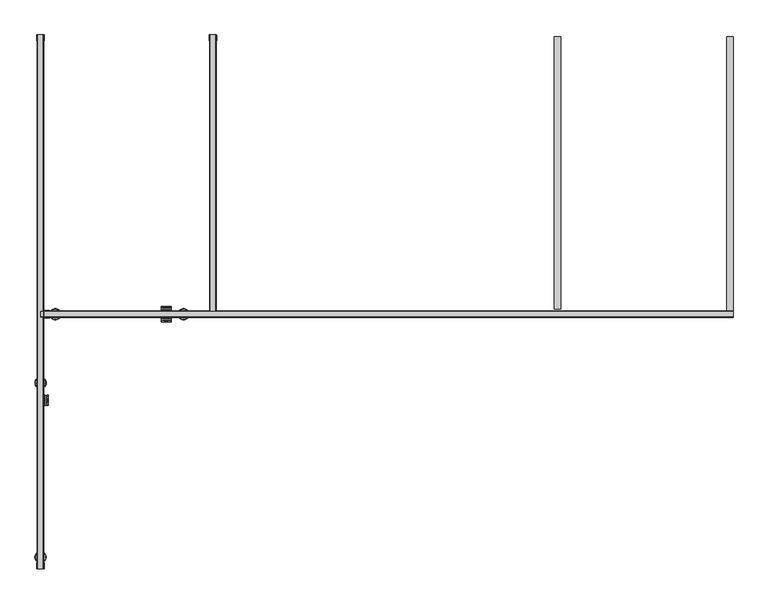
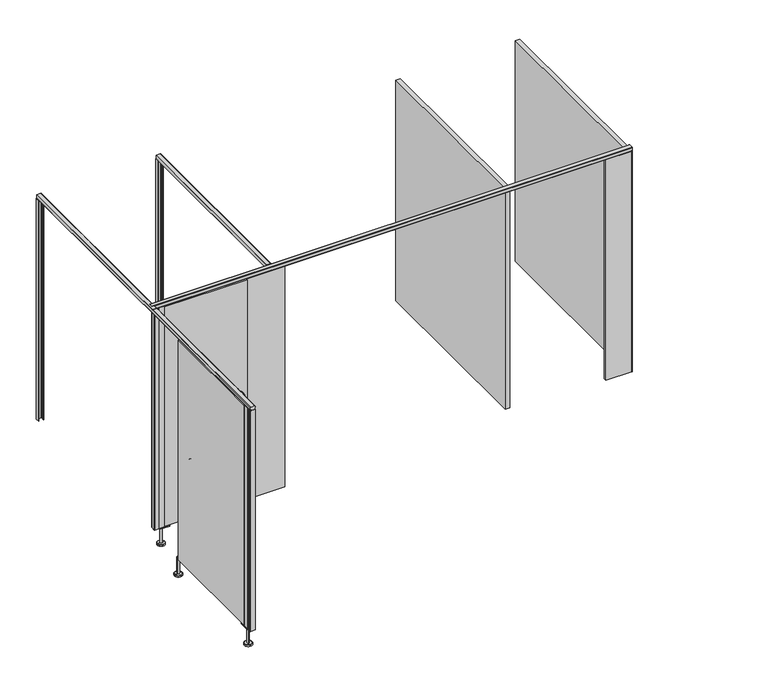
"""IFC4 building model written with IfcOpenShell, lengths in millimetres: proxy geometry, Partition_EuroStyle-Bradley_Corp-ADA_Alcove_4StandardStall-LOFT : Partition_EuroStyle-Bradley_Corp-ADA_Alcove_4StandardStall-LOFT."""

from ifc_helpers import new_model, si_unit, point, frame, frame_2d, origin, place, context, project, spatial, polyline, circle_curve, ellipse_curve, trimmed, segment, composite_curve, outline, extrude, source, transform, mapped, element, save
from ifc_brep_helpers import plane_surface, cylinder_surface, revolved_surface, advanced_brep


def specialty_equipment_41413af0(model_context):
    return source(origin(), model_context, "Body", "SolidModel", [
        advanced_brep(
        [(1585.4203251, -2016.8, 1050.0), (1585.4203251, -1988.225, 1050.0), (1585.4203251, -2045.375, 1050.0), (1590.1828251, -1988.225, 1050.0), (1590.1828251, -2045.375, 1050.0), (1604.4703251, -2045.375, 1050.0), (1604.4703251, -1988.225, 1050.0), (1609.2328251, -1988.225, 1050.0), (1609.2328251, -2045.375, 1050.0), (1602.8828251, -2043.7875, 1050.0), (1602.8828251, -1989.8125, 1050.0), (1591.7703251, -2043.7875, 1050.0), (1591.7703251, -1989.8125, 1050.0), (1610.8203251, -2016.8, 1050.0)],
        [
            (0, 1),
            (1, 2, circle_curve(frame((1585.4203251, -2016.8, 1050.0), z_axis=(-1.0, 0.0, 0.0), x_axis=(0.0, 1.0, 0.0)), 28.575)),
            (2, 0),
            (2, 1, circle_curve(frame((1585.4203251, -2016.8, 1050.0), z_axis=(-1.0, 0.0, 0.0), x_axis=(0.0, 1.0, 0.0)), 28.575)),
            (1, 3),
            (3, 4, circle_curve(frame((1590.1828251, -2016.8, 1050.0), z_axis=(-1.0, 0.0, 0.0), x_axis=(0.0, 1.0, 0.0)), 28.575)),
            (4, 2),
            (4, 3, circle_curve(frame((1590.1828251, -2016.8, 1050.0), z_axis=(-1.0, 0.0, 0.0), x_axis=(0.0, 1.0, 0.0)), 28.575)),
            (5, 6, circle_curve(frame((1604.4703251, -2016.8, 1050.0), z_axis=(1.0, 0.0, 0.0), x_axis=(0.0, 1.0, 0.0)), 28.575)),
            (6, 7),
            (7, 8, circle_curve(frame((1609.2328251, -2016.8, 1050.0), z_axis=(-1.0, 0.0, 0.0), x_axis=(0.0, 1.0, 0.0)), 28.575)),
            (8, 5),
            (6, 5, circle_curve(frame((1604.4703251, -2016.8, 1050.0), z_axis=(1.0, 0.0, 0.0), x_axis=(0.0, 1.0, 0.0)), 28.575)),
            (8, 7, circle_curve(frame((1609.2328251, -2016.8, 1050.0), z_axis=(-1.0, 0.0, 0.0), x_axis=(0.0, 1.0, 0.0)), 28.575)),
            (9, 10, circle_curve(frame((1602.8828251, -2016.8, 1050.0), z_axis=(1.0, 0.0, 0.0), x_axis=(0.0, 1.0, 0.0)), 26.9875)),
            (10, 6, circle_curve(frame((1602.8828251, -1988.225, 1050.0), z_axis=(0.0, 0.0, 1.0), x_axis=(0.0, 1.0, 0.0)), 1.5875)),
            (5, 9, circle_curve(frame((1602.8828251, -2045.375, 1050.0), z_axis=(0.0, 0.0, 1.0), x_axis=(0.0, -1.0, 0.0)), 1.5875)),
            (10, 9, circle_curve(frame((1602.8828251, -2016.8, 1050.0), z_axis=(1.0, 0.0, 0.0), x_axis=(0.0, 1.0, 0.0)), 26.9875)),
            (11, 12, circle_curve(frame((1591.7703251, -2016.8, 1050.0), z_axis=(1.0, 0.0, 0.0), x_axis=(0.0, 1.0, 0.0)), 26.9875)),
            (12, 10),
            (9, 11),
            (12, 11, circle_curve(frame((1591.7703251, -2016.8, 1050.0), z_axis=(1.0, 0.0, 0.0), x_axis=(0.0, 1.0, 0.0)), 26.9875)),
            (3, 12, circle_curve(frame((1591.7703251, -1988.225, 1050.0), z_axis=(0.0, 0.0, 1.0), x_axis=(0.0, 1.0, 0.0)), 1.5875)),
            (11, 4, circle_curve(frame((1591.7703251, -2045.375, 1050.0), z_axis=(0.0, 0.0, 1.0), x_axis=(0.0, -1.0, 0.0)), 1.5875)),
            (7, 13, circle_curve(frame((1419.3457959, -2013.1058766, 1050.0), z_axis=(0.0, 0.0, -1.0), x_axis=(0.0, 1.0, 0.0)), 191.5101613)),
            (13, 8, circle_curve(frame((1419.3457959, -2020.4941234, 1050.0), z_axis=(0.0, 0.0, -1.0), x_axis=(0.0, -1.0, 0.0)), 191.5101613)),
        ],
        [
            plane_surface(frame((1585.4203251, -2016.8, 1050.0), z_axis=(-1.0, 0.0, 0.0), x_axis=(0.0, 1.0, 0.0))),
            cylinder_surface(frame((1585.4203251, -2016.8, 1050.0), z_axis=(-1.0, 0.0, 0.0), x_axis=(0.0, 1.0, 0.0)), 28.575),
            revolved_surface(trimmed(ellipse_curve(frame((1602.8828251, -1988.225, 1050.0), z_axis=(0.0, 0.0, -1.0), x_axis=(0.0, 1.0, 0.0)), 1.5875, 1.5875), [point((1604.4703251, -1988.225, 1050.0))], [point((1602.8828251, -1989.8125, 1050.0))], True, "CARTESIAN"), (1585.4203251, -2016.8, 1050.0), (-1.0, 0.0, 0.0)),
            cylinder_surface(frame((1585.4203251, -2016.8, 1050.0), z_axis=(-1.0, 0.0, 0.0), x_axis=(0.0, 1.0, 0.0)), 26.9875),
            revolved_surface(trimmed(ellipse_curve(frame((1591.7703251, -1988.225, 1050.0), z_axis=(0.0, 0.0, -1.0), x_axis=(0.0, 1.0, 0.0)), 1.5875, 1.5875), [point((1591.7703251, -1989.8125, 1050.0))], [point((1590.1828251, -1988.225, 1050.0))], True, "CARTESIAN"), (1585.4203251, -2016.8, 1050.0), (-1.0, 0.0, 0.0)),
            revolved_surface(trimmed(ellipse_curve(frame((1419.3457959, -2013.1058766, 1050.0), z_axis=(0.0, 0.0, 1.0), x_axis=(0.0, 1.0, 0.0)), 191.5101613, 191.5101613), [point((1610.8203251, -2016.8, 1050.0))], [point((1609.2328251, -1988.225, 1050.0))], True, "CARTESIAN"), (1585.4203251, -2016.8, 1050.0), (-1.0, 0.0, 0.0)),
        ],
        [
            (0, [[1, 2, 3]]),
            (0, [[-3, 4, -1]]),
            (1, [[-2, 5, 6, 7]]),
            (1, [[-4, -7, 8, -5]]),
            (1, [[9, 10, 11, 12]]),
            (1, [[13, -12, 14, -10]]),
            (2, [[15, 16, -9, 17]]),
            (2, [[18, -17, -13, -16]]),
            (3, [[19, 20, -15, 21]]),
            (3, [[22, -21, -18, -20]]),
            (4, [[-6, 23, -19, 24]]),
            (4, [[-8, -24, -22, -23]]),
            (5, [[-11, 25, 26]]),
            (5, [[-14, -26, -25]]),
        ],
    ),
        extrude(outline(polyline([(1549.4, -2862.4032348), (1549.4, -1953.3), (1585.4203251, -1953.3), (1585.4203251, -2862.4032348), (1549.4, -2862.4032348)])), frame((0.0, 0.0, 150.0), z_axis=(0.0, 0.0, 1.0), x_axis=(1.0, 0.0, 0.0)), (0.0, 0.0, 1.0), 1846.0),
        advanced_brep(
        [(2232.4451766, -1524.0098174, 1050.0), (2289.5951766, -1524.0098174, 1050.0), (2261.0201766, -1524.0098174, 1050.0), (2232.4451766, -1519.2473174, 1050.0), (2289.5951766, -1519.2473174, 1050.0), (2232.4451766, -1500.1973174, 1050.0), (2289.5951766, -1500.1973174, 1050.0), (2289.5951766, -1504.9598174, 1050.0), (2232.4451766, -1504.9598174, 1050.0), (2288.0076766, -1506.5473174, 1050.0), (2234.0326766, -1506.5473174, 1050.0), (2288.0076766, -1517.6598174, 1050.0), (2234.0326766, -1517.6598174, 1050.0), (2261.0201766, -1498.6098174, 1050.0)],
        [
            (0, 1, circle_curve(frame((2261.0201766, -1524.0098174, 1050.0), z_axis=(0.0, -1.0, 0.0), x_axis=(1.0000000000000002, 0.0, 0.0)), 28.575)),
            (1, 2),
            (2, 0),
            (1, 0, circle_curve(frame((2261.0201766, -1524.0098174, 1050.0), z_axis=(0.0, -1.0, 0.0), x_axis=(1.0000000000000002, 0.0, 0.0)), 28.575)),
            (3, 4, circle_curve(frame((2261.0201766, -1519.2473174, 1050.0), z_axis=(0.0, -1.0, 0.0), x_axis=(1.0000000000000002, 0.0, 0.0)), 28.575)),
            (4, 1),
            (0, 3),
            (4, 3, circle_curve(frame((2261.0201766, -1519.2473174, 1050.0), z_axis=(0.0, -1.0, 0.0), x_axis=(1.0000000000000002, 0.0, 0.0)), 28.575)),
            (5, 6, circle_curve(frame((2261.0201766, -1500.1973174, 1050.0), z_axis=(0.0, -1.0, 0.0), x_axis=(1.0000000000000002, 0.0, 0.0)), 28.575)),
            (6, 7),
            (7, 8, circle_curve(frame((2261.0201766, -1504.9598174, 1050.0), z_axis=(0.0, 1.0, 0.0), x_axis=(1.0000000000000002, 0.0, 0.0)), 28.575)),
            (8, 5),
            (6, 5, circle_curve(frame((2261.0201766, -1500.1973174, 1050.0), z_axis=(0.0, -1.0, 0.0), x_axis=(1.0000000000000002, 0.0, 0.0)), 28.575)),
            (8, 7, circle_curve(frame((2261.0201766, -1504.9598174, 1050.0), z_axis=(0.0, 1.0, 0.0), x_axis=(1.0000000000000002, 0.0, 0.0)), 28.575)),
            (7, 9, circle_curve(frame((2289.5951766, -1506.5473174, 1050.0), z_axis=(0.0, 0.0, 1.0), x_axis=(1.0000000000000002, 0.0, 0.0)), 1.5875)),
            (9, 10, circle_curve(frame((2261.0201766, -1506.5473174, 1050.0), z_axis=(0.0, 1.0, 0.0), x_axis=(1.0000000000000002, 0.0, 0.0)), 26.9875)),
            (10, 8, circle_curve(frame((2232.4451766, -1506.5473174, 1050.0), z_axis=(0.0, 0.0, 1.0), x_axis=(-1.0000000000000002, 0.0, 0.0)), 1.5875)),
            (10, 9, circle_curve(frame((2261.0201766, -1506.5473174, 1050.0), z_axis=(0.0, 1.0, 0.0), x_axis=(1.0000000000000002, 0.0, 0.0)), 26.9875)),
            (9, 11),
            (11, 12, circle_curve(frame((2261.0201766, -1517.6598174, 1050.0), z_axis=(0.0, 1.0, 0.0), x_axis=(1.0000000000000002, 0.0, 0.0)), 26.9875)),
            (12, 10),
            (12, 11, circle_curve(frame((2261.0201766, -1517.6598174, 1050.0), z_axis=(0.0, 1.0, 0.0), x_axis=(1.0000000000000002, 0.0, 0.0)), 26.9875)),
            (11, 4, circle_curve(frame((2289.5951766, -1517.6598174, 1050.0), z_axis=(0.0, 0.0, 1.0), x_axis=(1.0000000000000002, 0.0, 0.0)), 1.5875)),
            (3, 12, circle_curve(frame((2232.4451766, -1517.6598174, 1050.0), z_axis=(0.0, 0.0, 1.0), x_axis=(-1.0000000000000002, 0.0, 0.0)), 1.5875)),
            (13, 6, circle_curve(frame((2264.7143, -1690.0843466, 1050.0), z_axis=(0.0, 0.0, -1.0), x_axis=(1.0000000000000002, 0.0, 0.0)), 191.5101613)),
            (5, 13, circle_curve(frame((2257.3260533, -1690.0843466, 1050.0), z_axis=(0.0, 0.0, -1.0), x_axis=(-1.0000000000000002, 0.0, 0.0)), 191.5101613)),
        ],
        [
            plane_surface(frame((2261.0201766, -1524.0098174, 1050.0), z_axis=(0.0, -1.0, 0.0), x_axis=(1.0, 0.0, 0.0))),
            cylinder_surface(frame((2261.0201766, -1524.0098174, 1050.0), z_axis=(0.0, 1.0000000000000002, 0.0), x_axis=(1.0000000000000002, 0.0, 0.0)), 28.575),
            revolved_surface(trimmed(ellipse_curve(frame((2289.5951766, -1506.5473174, 1050.0), z_axis=(0.0, 0.0, -1.0), x_axis=(1.0000000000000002, 0.0, 0.0)), 1.5875, 1.5875), [point((2288.0076766, -1506.5473174, 1050.0))], [point((2289.5951766, -1504.9598174, 1050.0))], True, "CARTESIAN"), (2261.0201766, -1524.0098174, 1050.0), (0.0, 1.0000000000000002, 0.0)),
            cylinder_surface(frame((2261.0201766, -1524.0098174, 1050.0), z_axis=(0.0, 1.0000000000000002, 0.0), x_axis=(1.0000000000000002, 0.0, 0.0)), 26.9875),
            revolved_surface(trimmed(ellipse_curve(frame((2289.5951766, -1517.6598174, 1050.0), z_axis=(0.0, 0.0, -1.0), x_axis=(1.0000000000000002, 0.0, 0.0)), 1.5875, 1.5875), [point((2289.5951766, -1519.2473174, 1050.0))], [point((2288.0076766, -1517.6598174, 1050.0))], True, "CARTESIAN"), (2261.0201766, -1524.0098174, 1050.0), (0.0, 1.0000000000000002, 0.0)),
            revolved_surface(trimmed(ellipse_curve(frame((2264.7143, -1690.0843466, 1050.0), z_axis=(0.0, 0.0, 1.0), x_axis=(1.0000000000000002, 0.0, 0.0)), 191.5101613, 191.5101613), [point((2289.5951766, -1500.1973174, 1050.0))], [point((2261.0201766, -1498.6098174, 1050.0))], True, "CARTESIAN"), (2261.0201766, -1524.0098174, 1050.0), (0.0, 1.0000000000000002, 0.0)),
        ],
        [
            (0, [[1, 2, 3]]),
            (0, [[4, -3, -2]]),
            (1, [[5, 6, -1, 7]]),
            (1, [[8, -7, -4, -6]]),
            (1, [[9, 10, 11, 12]]),
            (1, [[13, -12, 14, -10]]),
            (2, [[-11, 15, 16, 17]]),
            (2, [[-14, -17, 18, -15]]),
            (3, [[-16, 19, 20, 21]]),
            (3, [[-18, -21, 22, -19]]),
            (4, [[-20, 23, -5, 24]]),
            (4, [[-22, -24, -8, -23]]),
            (5, [[25, -9, 26]]),
            (5, [[-26, -13, -25]]),
        ],
    ),
        advanced_brep(
        [(2261.0201766, -1560.0098174, 1050.0), (2289.5951766, -1560.0098174, 1050.0), (2232.4451766, -1560.0098174, 1050.0), (2289.5951766, -1564.7723174, 1050.0), (2232.4451766, -1564.7723174, 1050.0), (2232.4451766, -1579.0598174, 1050.0), (2289.5951766, -1579.0598174, 1050.0), (2289.5951766, -1583.8223174, 1050.0), (2232.4451766, -1583.8223174, 1050.0), (2234.0326766, -1577.4723174, 1050.0), (2288.0076766, -1577.4723174, 1050.0), (2234.0326766, -1566.3598174, 1050.0), (2288.0076766, -1566.3598174, 1050.0), (2261.0201766, -1585.4098174, 1050.0)],
        [
            (0, 1),
            (1, 2, circle_curve(frame((2261.0201766, -1560.0098174, 1050.0), z_axis=(0.0, 1.0, 0.0), x_axis=(1.0000000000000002, 0.0, 0.0)), 28.575)),
            (2, 0),
            (2, 1, circle_curve(frame((2261.0201766, -1560.0098174, 1050.0), z_axis=(0.0, 1.0, 0.0), x_axis=(1.0000000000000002, 0.0, 0.0)), 28.575)),
            (1, 3),
            (3, 4, circle_curve(frame((2261.0201766, -1564.7723174, 1050.0), z_axis=(0.0, 1.0, 0.0), x_axis=(1.0000000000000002, 0.0, 0.0)), 28.575)),
            (4, 2),
            (4, 3, circle_curve(frame((2261.0201766, -1564.7723174, 1050.0), z_axis=(0.0, 1.0, 0.0), x_axis=(1.0000000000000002, 0.0, 0.0)), 28.575)),
            (5, 6, circle_curve(frame((2261.0201766, -1579.0598174, 1050.0), z_axis=(0.0, -1.0, 0.0), x_axis=(1.0000000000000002, 0.0, 0.0)), 28.575)),
            (6, 7),
            (7, 8, circle_curve(frame((2261.0201766, -1583.8223174, 1050.0), z_axis=(0.0, 1.0, 0.0), x_axis=(1.0000000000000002, 0.0, 0.0)), 28.575)),
            (8, 5),
            (6, 5, circle_curve(frame((2261.0201766, -1579.0598174, 1050.0), z_axis=(0.0, -1.0, 0.0), x_axis=(1.0000000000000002, 0.0, 0.0)), 28.575)),
            (8, 7, circle_curve(frame((2261.0201766, -1583.8223174, 1050.0), z_axis=(0.0, 1.0, 0.0), x_axis=(1.0000000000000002, 0.0, 0.0)), 28.575)),
            (9, 10, circle_curve(frame((2261.0201766, -1577.4723174, 1050.0), z_axis=(0.0, -1.0, 0.0), x_axis=(1.0000000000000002, 0.0, 0.0)), 26.9875)),
            (10, 6, circle_curve(frame((2289.5951766, -1577.4723174, 1050.0), z_axis=(0.0, 0.0, 1.0), x_axis=(1.0000000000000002, 0.0, 0.0)), 1.5875)),
            (5, 9, circle_curve(frame((2232.4451766, -1577.4723174, 1050.0), z_axis=(0.0, 0.0, 1.0), x_axis=(-1.0000000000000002, 0.0, 0.0)), 1.5875)),
            (10, 9, circle_curve(frame((2261.0201766, -1577.4723174, 1050.0), z_axis=(0.0, -1.0, 0.0), x_axis=(1.0000000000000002, 0.0, 0.0)), 26.9875)),
            (11, 12, circle_curve(frame((2261.0201766, -1566.3598174, 1050.0), z_axis=(0.0, -1.0, 0.0), x_axis=(1.0000000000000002, 0.0, 0.0)), 26.9875)),
            (12, 10),
            (9, 11),
            (12, 11, circle_curve(frame((2261.0201766, -1566.3598174, 1050.0), z_axis=(0.0, -1.0, 0.0), x_axis=(1.0000000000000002, 0.0, 0.0)), 26.9875)),
            (3, 12, circle_curve(frame((2289.5951766, -1566.3598174, 1050.0), z_axis=(0.0, 0.0, 1.0), x_axis=(1.0000000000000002, 0.0, 0.0)), 1.5875)),
            (11, 4, circle_curve(frame((2232.4451766, -1566.3598174, 1050.0), z_axis=(0.0, 0.0, 1.0), x_axis=(-1.0000000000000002, 0.0, 0.0)), 1.5875)),
            (7, 13, circle_curve(frame((2264.7143, -1393.9352882, 1050.0), z_axis=(0.0, 0.0, -1.0), x_axis=(1.0000000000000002, 0.0, 0.0)), 191.5101613)),
            (13, 8, circle_curve(frame((2257.3260533, -1393.9352882, 1050.0), z_axis=(0.0, 0.0, -1.0), x_axis=(-1.0000000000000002, 0.0, 0.0)), 191.5101613)),
        ],
        [
            plane_surface(frame((2261.0201766, -1560.0098174, 1050.0), z_axis=(0.0, 1.0, 0.0), x_axis=(1.0, 0.0, 0.0))),
            cylinder_surface(frame((2261.0201766, -1560.0098174, 1050.0), z_axis=(0.0, 1.0000000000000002, 0.0), x_axis=(1.0000000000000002, 0.0, 0.0)), 28.575),
            revolved_surface(trimmed(ellipse_curve(frame((2289.5951766, -1577.4723174, 1050.0), z_axis=(0.0, 0.0, -1.0), x_axis=(1.0000000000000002, 0.0, 0.0)), 1.5875, 1.5875), [point((2289.5951766, -1579.0598174, 1050.0))], [point((2288.0076766, -1577.4723174, 1050.0))], True, "CARTESIAN"), (2261.0201766, -1560.0098174, 1050.0), (0.0, 1.0000000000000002, 0.0)),
            cylinder_surface(frame((2261.0201766, -1560.0098174, 1050.0), z_axis=(0.0, 1.0000000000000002, 0.0), x_axis=(1.0000000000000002, 0.0, 0.0)), 26.9875),
            revolved_surface(trimmed(ellipse_curve(frame((2289.5951766, -1566.3598174, 1050.0), z_axis=(0.0, 0.0, -1.0), x_axis=(1.0000000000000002, 0.0, 0.0)), 1.5875, 1.5875), [point((2288.0076766, -1566.3598174, 1050.0))], [point((2289.5951766, -1564.7723174, 1050.0))], True, "CARTESIAN"), (2261.0201766, -1560.0098174, 1050.0), (0.0, 1.0000000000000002, 0.0)),
            revolved_surface(trimmed(ellipse_curve(frame((2264.7143, -1393.9352882, 1050.0), z_axis=(0.0, 0.0, 1.0), x_axis=(1.0000000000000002, 0.0, 0.0)), 191.5101613, 191.5101613), [point((2261.0201766, -1585.4098174, 1050.0))], [point((2289.5951766, -1583.8223174, 1050.0))], True, "CARTESIAN"), (2261.0201766, -1560.0098174, 1050.0), (0.0, 1.0000000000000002, 0.0)),
        ],
        [
            (0, [[1, 2, 3]]),
            (0, [[-3, 4, -1]]),
            (1, [[-2, 5, 6, 7]]),
            (1, [[-4, -7, 8, -5]]),
            (1, [[9, 10, 11, 12]]),
            (1, [[13, -12, 14, -10]]),
            (2, [[15, 16, -9, 17]]),
            (2, [[18, -17, -13, -16]]),
            (3, [[19, 20, -15, 21]]),
            (3, [[22, -21, -18, -20]]),
            (4, [[-6, 23, -19, 24]]),
            (4, [[-8, -24, -22, -23]]),
            (5, [[-11, 25, 26]]),
            (5, [[-14, -26, -25]]),
        ],
    ),
        extrude(outline(polyline([(1669.4170903, -1523.9894923), (2324.5201766, -1523.9894923), (2324.5201766, -1560.0098174), (1669.4170903, -1560.0098174), (1669.4170903, -1523.9894923)])), frame((0.0, 0.0, 150.0), z_axis=(0.0, 0.0, 1.0), x_axis=(1.0, 0.0, 0.0)), (0.0, 0.0, 1.0), 1846.0),
        extrude(outline(composite_curve([segment(polyline([(2497.3288796, -32.5000002), (2496.8205405, -2.02918)]), True, "CONTINUOUS"), segment(trimmed(circle_curve(frame_2d((2498.8497205, -2.02918)), 2.02918), [point((2496.8205405, -2.02918))], [point((2498.8497205, 0.0))], False, "CARTESIAN"), True, "CONTINUOUS"), segment(polyline([(2498.8497205, 0.0), (2536.7909298, 0.0)]), True, "CONTINUOUS"), segment(trimmed(circle_curve(frame_2d((2536.7909298, -2.02918)), 2.02918), [point((2536.7909298, 0.0))], [point((2538.8201098, -2.02918))], False, "CARTESIAN"), True, "CONTINUOUS"), segment(polyline([(2538.8201098, -2.02918), (2538.3117707, -32.5000002), (2536.8131851, -32.5000002)]), True, "CONTINUOUS"), segment(trimmed(circle_curve(frame_2d((2536.8167525, -31.5009082)), 0.9990984), [point((2536.8131851, -32.5000002))], [point((2536.3430999, -30.6212202))], False, "CARTESIAN"), True, "CONTINUOUS"), segment(polyline([(2536.3430999, -30.6212202), (2536.4642099, -23.3575702)]), True, "CONTINUOUS"), segment(trimmed(circle_curve(frame_2d((2536.9817558, -22.5000551)), 1.0015917), [point((2536.4642099, -23.3575702))], [point((2536.4926587, -21.6260013))], False, "CARTESIAN"), True, "CONTINUOUS"), segment(polyline([(2536.4926587, -21.6260013), (2536.78671, -4.0)]), True, "CONTINUOUS"), segment(trimmed(circle_curve(frame_2d((2534.7870154, -3.9990939)), 1.9996948), [point((2536.78671, -4.0))], [point((2534.7379958, -2.0))], True, "CARTESIAN"), True, "CONTINUOUS"), segment(polyline([(2534.7379958, -2.0), (2500.8536968, -2.0)]), True, "CONTINUOUS"), segment(trimmed(circle_curve(frame_2d((2500.8536968, -4.0002204)), 2.0002204), [point((2500.8536968, -2.0))], [point((2498.8535049, -3.9895469))], True, "CARTESIAN"), True, "CONTINUOUS"), segment(polyline([(2498.8535049, -3.9895469), (2499.1475604, -21.6257602)]), True, "CONTINUOUS"), segment(trimmed(circle_curve(frame_2d((2498.6588945, -22.5000551)), 1.0015917), [point((2499.1475604, -21.6257602))], [point((2499.1764404, -23.3575702))], False, "CARTESIAN"), True, "CONTINUOUS"), segment(polyline([(2499.1764404, -23.3575702), (2499.2975504, -30.6212202)]), True, "CONTINUOUS"), segment(trimmed(circle_curve(frame_2d((2498.8238978, -31.5009082)), 0.9990984), [point((2499.2975504, -30.6212202))], [point((2498.8274652, -32.5000002))], False, "CARTESIAN"), True, "CONTINUOUS"), segment(polyline([(2498.8274652, -32.5000002), (2497.3288796, -32.5000002)]), True, "CONTINUOUS")], self_intersect=False)), frame((0.0, 0.0, 150.0), z_axis=(0.0, 0.0, 1.0), x_axis=(1.0, 0.0, 0.0)), (0.0, 0.0, 1.0), 1855.0),
        extrude(outline(composite_curve([segment(polyline([(1617.9203254, -1521.5082093), (1617.9203254, -1523.0067949)]), True, "CONTINUOUS"), segment(trimmed(circle_curve(frame_2d((1616.9212333, -1523.0032275)), 0.9990984), [point((1617.9203254, -1523.0067949))], [point((1616.0415454, -1523.4768801))], False, "CARTESIAN"), True, "CONTINUOUS"), segment(polyline([(1616.0415454, -1523.4768801), (1608.7778953, -1523.3557701)]), True, "CONTINUOUS"), segment(trimmed(circle_curve(frame_2d((1607.9203802, -1522.8382242)), 1.0015917), [point((1608.7778953, -1523.3557701))], [point((1607.0460853, -1523.3268901))], False, "CARTESIAN"), True, "CONTINUOUS"), segment(polyline([(1607.0460853, -1523.3268901), (1589.4098721, -1523.0328346)]), True, "CONTINUOUS"), segment(trimmed(circle_curve(frame_2d((1589.4205455, -1525.0330265)), 2.0002204), [point((1589.4098721, -1523.0328346))], [point((1587.4203251, -1525.0330265))], True, "CARTESIAN"), True, "CONTINUOUS"), segment(polyline([(1587.4203251, -1525.0330265), (1587.4203252, -1558.9173255)]), True, "CONTINUOUS"), segment(trimmed(circle_curve(frame_2d((1589.4194191, -1558.9663451)), 1.9996948), [point((1587.4203252, -1558.9173255))], [point((1589.4203252, -1560.9660398))], True, "CARTESIAN"), True, "CONTINUOUS"), segment(polyline([(1589.4203252, -1560.9660398), (1607.0463264, -1560.6719884)]), True, "CONTINUOUS"), segment(trimmed(circle_curve(frame_2d((1607.9203802, -1561.1610855)), 1.0015917), [point((1607.0463264, -1560.6719884))], [point((1608.7778953, -1560.6435396))], False, "CARTESIAN"), True, "CONTINUOUS"), segment(polyline([(1608.7778953, -1560.6435396), (1616.0415454, -1560.5224296)]), True, "CONTINUOUS"), segment(trimmed(circle_curve(frame_2d((1616.9212333, -1560.9960822)), 0.9990984), [point((1616.0415454, -1560.5224296))], [point((1617.9203254, -1560.9925148))], False, "CARTESIAN"), True, "CONTINUOUS"), segment(polyline([(1617.9203254, -1560.9925148), (1617.9203254, -1562.4911004), (1587.4495052, -1562.9994395)]), True, "CONTINUOUS"), segment(trimmed(circle_curve(frame_2d((1587.4495052, -1560.9702595)), 2.02918), [point((1587.4495052, -1562.9994395))], [point((1585.4203251, -1560.9702595))], False, "CARTESIAN"), True, "CONTINUOUS"), segment(polyline([(1585.4203251, -1560.9702595), (1585.4203251, -1523.0290502)]), True, "CONTINUOUS"), segment(trimmed(circle_curve(frame_2d((1587.4495052, -1523.0290502)), 2.02918), [point((1585.4203251, -1523.0290502))], [point((1587.4495052, -1520.9998702))], False, "CARTESIAN"), True, "CONTINUOUS"), segment(polyline([(1587.4495052, -1520.9998702), (1617.9203254, -1521.5082093)]), True, "CONTINUOUS")], self_intersect=False)), frame((0.0, 0.0, 150.0), z_axis=(0.0, 0.0, 1.0), x_axis=(1.0, 0.0, 0.0)), (0.0, 0.0, 1.0), 1855.0),
        extrude(outline(polyline([(146.0000008, 1630.3184945), (138.0669895, 1630.3184945), (138.0669895, 1710.1657277), (146.0000008, 1710.0671655), (146.0000008, 1630.3184945)])), frame((0.0, -1559.4621549, 0.0), z_axis=(0.0, 1.0, 0.0), x_axis=(0.0, 0.0, 1.0)), (0.0, 0.0, 1.0), 34.925),
        advanced_brep(
        [(1657.9184936, -1541.9996549, 150.0000008), (1639.9184942, -1541.9996549, 150.0000008), (1639.9184942, -1541.9996549, 12.0000001), (1657.9184936, -1541.9996549, 12.0000001), (1648.9184939, -1541.9996549, 150.0000008), (1679.9184928, -1541.9996549, 0.0), (1617.9184949, -1541.9996549, 0.0), (1648.9184939, -1541.9996549, 0.0), (1679.9184928, -1541.9996549, 10.0000001), (1617.9184949, -1541.9996549, 10.0000001), (1677.9160809, -1541.9996549, 12.0000001), (1619.9209068, -1541.9996549, 12.0000001)],
        [
            (0, 1, circle_curve(frame((1648.9184939, -1541.9996549, 150.0000008), z_axis=(0.0, 0.0, -1.0), x_axis=(-1.0, 0.0, 0.0)), 8.9999997)),
            (1, 2),
            (2, 3, circle_curve(frame((1648.9184939, -1541.9996549, 12.0000001), z_axis=(0.0, 0.0, 1.0), x_axis=(-1.0, 0.0, 0.0)), 8.9999997)),
            (3, 0),
            (1, 0, circle_curve(frame((1648.9184939, -1541.9996549, 150.0000008), z_axis=(0.0, 0.0, -1.0), x_axis=(-1.0, 0.0, 0.0)), 8.9999997)),
            (3, 2, circle_curve(frame((1648.9184939, -1541.9996549, 12.0000001), z_axis=(0.0, 0.0, 1.0), x_axis=(-1.0, 0.0, 0.0)), 8.9999997)),
            (4, 1),
            (0, 4),
            (5, 6, circle_curve(frame((1648.9184939, -1541.9996549, 0.0), z_axis=(0.0, 0.0, -1.0), x_axis=(-1.0, 0.0, 0.0)), 30.9999989)),
            (6, 7),
            (7, 5),
            (6, 5, circle_curve(frame((1648.9184939, -1541.9996549, 0.0), z_axis=(0.0, 0.0, -1.0), x_axis=(-1.0, 0.0, 0.0)), 30.9999989)),
            (8, 9, circle_curve(frame((1648.9184939, -1541.9996549, 10.0000001), z_axis=(0.0, 0.0, -1.0), x_axis=(-1.0, 0.0, 0.0)), 30.9999989)),
            (9, 6),
            (5, 8),
            (9, 8, circle_curve(frame((1648.9184939, -1541.9996549, 10.0000001), z_axis=(0.0, 0.0, -1.0), x_axis=(-1.0, 0.0, 0.0)), 30.9999989)),
            (10, 11, circle_curve(frame((1648.9184939, -1541.9996549, 12.0000001), z_axis=(0.0, 0.0, -1.0), x_axis=(-1.0, 0.0, 0.0)), 28.997587)),
            (11, 9),
            (8, 10),
            (11, 10, circle_curve(frame((1648.9184939, -1541.9996549, 12.0000001), z_axis=(0.0, 0.0, -1.0), x_axis=(-1.0, 0.0, 0.0)), 28.997587)),
            (2, 11),
            (10, 3),
        ],
        [
            cylinder_surface(frame((1648.9184939, -1541.9996549, 0.0), z_axis=(0.0, 0.0, 1.0), x_axis=(-1.0, 0.0, 0.0)), 8.9999997),
            plane_surface(frame((1648.9184939, -1541.9996549, 150.0000008), z_axis=(0.0, 0.0, 1.0), x_axis=(-1.0, 0.0, 0.0))),
            plane_surface(frame((1648.9184939, -1541.9996549, 0.0), z_axis=(0.0, 0.0, -1.0), x_axis=(-1.0, 0.0, 0.0))),
            cylinder_surface(frame((1648.9184939, -1541.9996549, 0.0), z_axis=(0.0, 0.0, 1.0), x_axis=(-1.0, 0.0, 0.0)), 30.9999989),
            revolved_surface(polyline([(1617.9184949, -1541.9996549, 10.0000001), (1619.9209068, -1541.9996549, 12.0000001)]), (1648.9184939, -1541.9996549, 0.0), (0.0, 0.0, 1.0)),
            plane_surface(frame((1648.9184939, -1541.9996549, 12.0000001), z_axis=(0.0, 0.0, 1.0), x_axis=(-1.0, 0.0, 0.0))),
        ],
        [
            (0, [[1, 2, 3, 4]]),
            (0, [[5, -4, 6, -2]]),
            (1, [[7, -1, 8]]),
            (1, [[-8, -5, -7]]),
            (2, [[9, 10, 11]]),
            (2, [[12, -11, -10]]),
            (3, [[13, 14, -9, 15]]),
            (3, [[16, -15, -12, -14]]),
            (4, [[17, 18, -13, 19]]),
            (4, [[20, -19, -16, -18]]),
            (5, [[-3, 21, -17, 22]]),
            (5, [[-6, -22, -20, -21]]),
        ],
    ),
        extrude(outline(composite_curve([segment(polyline([(1595.4202531, -1523.9894923), (1670.9173386, -1523.9894923), (1670.9173386, -1525.9826232), (1672.0893041, -1525.9826232), (1673.0172441, -1528.6775566)]), True, "CONTINUOUS"), segment(trimmed(circle_curve(frame_2d((1696.3302625, -1542.1248043)), 26.9132923), [point((1673.0172441, -1528.6775566))], [point((1672.9373096, -1555.4325109))], True, "CARTESIAN"), True, "CONTINUOUS"), segment(polyline([(1672.9373096, -1555.4325109), (1671.99932, -1558.0096163), (1670.9173386, -1558.0096163), (1670.9173386, -1560.0098174), (1595.4202531, -1560.0098174), (1595.4202531, -1523.9894923)]), True, "CONTINUOUS")], self_intersect=False)), frame((0.0, 0.0, 150.0), z_axis=(0.0, 0.0, 1.0), x_axis=(1.0, 0.0, 0.0)), (0.0, 0.0, 1.0), 1855.0),
        extrude(outline(composite_curve([segment(polyline([(1546.918717, -2913.8999998), (1548.4173026, -2913.8999998)]), True, "CONTINUOUS"), segment(trimmed(circle_curve(frame_2d((1548.4137352, -2914.8990918)), 0.9990984), [point((1548.4173026, -2913.8999998))], [point((1548.8873879, -2915.7787798))], False, "CARTESIAN"), True, "CONTINUOUS"), segment(polyline([(1548.8873879, -2915.7787798), (1548.7662779, -2923.0424298)]), True, "CONTINUOUS"), segment(trimmed(circle_curve(frame_2d((1548.248732, -2923.8999449)), 1.0015917), [point((1548.7662779, -2923.0424298))], [point((1548.7373979, -2924.7742398))], False, "CARTESIAN"), True, "CONTINUOUS"), segment(polyline([(1548.7373979, -2924.7742398), (1548.4433424, -2942.4104531)]), True, "CONTINUOUS"), segment(trimmed(circle_curve(frame_2d((1550.4435342, -2942.3997796)), 2.0002204), [point((1548.4433424, -2942.4104531))], [point((1550.4435342, -2944.4))], True, "CARTESIAN"), True, "CONTINUOUS"), segment(polyline([(1550.4435342, -2944.4), (1584.3278332, -2944.4)]), True, "CONTINUOUS"), segment(trimmed(circle_curve(frame_2d((1584.3768528, -2942.4009061)), 1.9996948), [point((1584.3278332, -2944.4))], [point((1586.3765475, -2942.4))], True, "CARTESIAN"), True, "CONTINUOUS"), segment(polyline([(1586.3765475, -2942.4), (1586.0824961, -2924.7739987)]), True, "CONTINUOUS"), segment(trimmed(circle_curve(frame_2d((1586.5715932, -2923.8999449)), 1.0015917), [point((1586.0824961, -2924.7739987))], [point((1586.0540473, -2923.0424298))], False, "CARTESIAN"), True, "CONTINUOUS"), segment(polyline([(1586.0540473, -2923.0424298), (1585.9329373, -2915.7787798)]), True, "CONTINUOUS"), segment(trimmed(circle_curve(frame_2d((1586.4065899, -2914.8990918)), 0.9990984), [point((1585.9329373, -2915.7787798))], [point((1586.4030225, -2913.8999998))], False, "CARTESIAN"), True, "CONTINUOUS"), segment(polyline([(1586.4030225, -2913.8999998), (1587.9016081, -2913.8999998), (1588.4099473, -2944.37082)]), True, "CONTINUOUS"), segment(trimmed(circle_curve(frame_2d((1586.3807672, -2944.37082)), 2.02918), [point((1588.4099473, -2944.37082))], [point((1586.3807672, -2946.4))], False, "CARTESIAN"), True, "CONTINUOUS"), segment(polyline([(1586.3807672, -2946.4), (1548.4395579, -2946.4)]), True, "CONTINUOUS"), segment(trimmed(circle_curve(frame_2d((1548.4395579, -2944.37082)), 2.02918), [point((1548.4395579, -2946.4))], [point((1546.4103779, -2944.37082))], False, "CARTESIAN"), True, "CONTINUOUS"), segment(polyline([(1546.4103779, -2944.37082), (1546.918717, -2913.8999998)]), True, "CONTINUOUS")], self_intersect=False)), frame((0.0, 0.0, 150.0), z_axis=(0.0, 0.0, 1.0), x_axis=(1.0, 0.0, 0.0)), (0.0, 0.0, 1.0), 1855.0),
        extrude(outline(polyline([(-2901.5018307, 146.0000008), (-2821.7531596, 146.0000008), (-2821.6545975, 138.0669895), (-2901.5018307, 138.0669895), (-2901.5018307, 146.0000008)])), frame((1549.9476626, 0.0, 0.0), z_axis=(1.0, 0.0, 0.0), x_axis=(0.0, 1.0, 0.0)), (0.0, 0.0, 1.0), 34.925),
        advanced_brep(
        [(1567.4101626, -2873.9018316, 150.0000008), (1567.4101626, -2891.901831, 150.0000008), (1567.4101626, -2891.901831, 12.0000001), (1567.4101626, -2873.9018316, 12.0000001), (1567.4101626, -2882.9018313, 150.0000008), (1567.4101626, -2851.9018323, 0.0), (1567.4101626, -2913.9018302, 0.0), (1567.4101626, -2882.9018313, 0.0), (1567.4101626, -2851.9018323, 10.0000001), (1567.4101626, -2913.9018302, 10.0000001), (1567.4101626, -2853.9042443, 12.0000001), (1567.4101626, -2911.8994183, 12.0000001)],
        [
            (0, 1, circle_curve(frame((1567.4101626, -2882.9018313, 150.0000008), z_axis=(0.0, 0.0, -1.0), x_axis=(0.0, -1.0, 0.0)), 8.9999997)),
            (1, 2),
            (2, 3, circle_curve(frame((1567.4101626, -2882.9018313, 12.0000001), z_axis=(0.0, 0.0, 1.0), x_axis=(0.0, -1.0, 0.0)), 8.9999997)),
            (3, 0),
            (1, 0, circle_curve(frame((1567.4101626, -2882.9018313, 150.0000008), z_axis=(0.0, 0.0, -1.0), x_axis=(0.0, -1.0, 0.0)), 8.9999997)),
            (3, 2, circle_curve(frame((1567.4101626, -2882.9018313, 12.0000001), z_axis=(0.0, 0.0, 1.0), x_axis=(0.0, -1.0, 0.0)), 8.9999997)),
            (4, 1),
            (0, 4),
            (5, 6, circle_curve(frame((1567.4101626, -2882.9018313, 0.0), z_axis=(0.0, 0.0, -1.0), x_axis=(0.0, -1.0, 0.0)), 30.9999989)),
            (6, 7),
            (7, 5),
            (6, 5, circle_curve(frame((1567.4101626, -2882.9018313, 0.0), z_axis=(0.0, 0.0, -1.0), x_axis=(0.0, -1.0, 0.0)), 30.9999989)),
            (8, 9, circle_curve(frame((1567.4101626, -2882.9018313, 10.0000001), z_axis=(0.0, 0.0, -1.0), x_axis=(0.0, -1.0, 0.0)), 30.9999989)),
            (9, 6),
            (5, 8),
            (9, 8, circle_curve(frame((1567.4101626, -2882.9018313, 10.0000001), z_axis=(0.0, 0.0, -1.0), x_axis=(0.0, -1.0, 0.0)), 30.9999989)),
            (10, 11, circle_curve(frame((1567.4101626, -2882.9018313, 12.0000001), z_axis=(0.0, 0.0, -1.0), x_axis=(0.0, -1.0, 0.0)), 28.997587)),
            (11, 9),
            (8, 10),
            (11, 10, circle_curve(frame((1567.4101626, -2882.9018313, 12.0000001), z_axis=(0.0, 0.0, -1.0), x_axis=(0.0, -1.0, 0.0)), 28.997587)),
            (2, 11),
            (10, 3),
        ],
        [
            cylinder_surface(frame((1567.4101626, -2882.9018313, 0.0), z_axis=(0.0, 0.0, 1.0), x_axis=(0.0, -1.0, 0.0)), 8.9999997),
            plane_surface(frame((1567.4101626, -2882.9018313, 150.0000008), z_axis=(0.0, 0.0, 1.0), x_axis=(0.0, -1.0, 0.0))),
            plane_surface(frame((1567.4101626, -2882.9018313, 0.0), z_axis=(0.0, 0.0, -1.0), x_axis=(0.0, -1.0, 0.0))),
            cylinder_surface(frame((1567.4101626, -2882.9018313, 0.0), z_axis=(0.0, 0.0, 1.0), x_axis=(0.0, -1.0, 0.0)), 30.9999989),
            revolved_surface(polyline([(1567.4101626, -2913.9018302, 10.0000001), (1567.4101626, -2911.8994183, 12.0000001)]), (1567.4101626, -2882.9018313, 0.0), (0.0, 0.0, 1.0)),
            plane_surface(frame((1567.4101626, -2882.9018313, 12.0000001), z_axis=(0.0, 0.0, 1.0), x_axis=(0.0, -1.0, 0.0))),
        ],
        [
            (0, [[1, 2, 3, 4]]),
            (0, [[5, -4, 6, -2]]),
            (1, [[7, -1, 8]]),
            (1, [[-8, -5, -7]]),
            (2, [[9, 10, 11]]),
            (2, [[12, -11, -10]]),
            (3, [[13, 14, -9, 15]]),
            (3, [[16, -15, -12, -14]]),
            (4, [[17, 18, -13, 19]]),
            (4, [[20, -19, -16, -18]]),
            (5, [[-3, 21, -17, 22]]),
            (5, [[-6, -22, -20, -21]]),
        ],
    ),
        extrude(outline(composite_curve([segment(polyline([(1549.4, -2936.400072), (1549.4, -2860.9029866), (1551.393131, -2860.9029866), (1551.393131, -2859.7310211), (1554.0880643, -2858.8030811)]), True, "CONTINUOUS"), segment(trimmed(circle_curve(frame_2d((1567.535312, -2835.4900626)), 26.9132923), [point((1554.0880643, -2858.8030811))], [point((1580.8430186, -2858.8830156))], True, "CARTESIAN"), True, "CONTINUOUS"), segment(polyline([(1580.8430186, -2858.8830156), (1583.420124, -2859.8210052), (1583.420124, -2860.9029866), (1585.4203251, -2860.9029866), (1585.4203251, -2936.400072), (1549.4, -2936.400072)]), True, "CONTINUOUS")], self_intersect=False)), frame((0.0, 0.0, 150.0), z_axis=(0.0, 0.0, 1.0), x_axis=(1.0, 0.0, 0.0)), (0.0, 0.0, 1.0), 1855.0),
        extrude(outline(composite_curve([segment(polyline([(1546.918717, -32.5000002), (1546.4103779, -2.02918)]), True, "CONTINUOUS"), segment(trimmed(circle_curve(frame_2d((1548.4395579, -2.02918)), 2.02918), [point((1546.4103779, -2.02918))], [point((1548.4395579, 0.0))], False, "CARTESIAN"), True, "CONTINUOUS"), segment(polyline([(1548.4395579, 0.0), (1586.3807672, 0.0)]), True, "CONTINUOUS"), segment(trimmed(circle_curve(frame_2d((1586.3807672, -2.02918)), 2.02918), [point((1586.3807672, 0.0))], [point((1588.4099473, -2.02918))], False, "CARTESIAN"), True, "CONTINUOUS"), segment(polyline([(1588.4099473, -2.02918), (1587.9016081, -32.5000002), (1586.4030225, -32.5000002)]), True, "CONTINUOUS"), segment(trimmed(circle_curve(frame_2d((1586.4065899, -31.5009082)), 0.9990984), [point((1586.4030225, -32.5000002))], [point((1585.9329373, -30.6212202))], False, "CARTESIAN"), True, "CONTINUOUS"), segment(polyline([(1585.9329373, -30.6212202), (1586.0540473, -23.3575702)]), True, "CONTINUOUS"), segment(trimmed(circle_curve(frame_2d((1586.5715932, -22.5000551)), 1.0015917), [point((1586.0540473, -23.3575702))], [point((1586.0824961, -21.6260013))], False, "CARTESIAN"), True, "CONTINUOUS"), segment(polyline([(1586.0824961, -21.6260013), (1586.3765475, -4.0)]), True, "CONTINUOUS"), segment(trimmed(circle_curve(frame_2d((1584.3768528, -3.9990939)), 1.9996948), [point((1586.3765475, -4.0))], [point((1584.3278332, -2.0))], True, "CARTESIAN"), True, "CONTINUOUS"), segment(polyline([(1584.3278332, -2.0), (1550.4435342, -2.0)]), True, "CONTINUOUS"), segment(trimmed(circle_curve(frame_2d((1550.4435342, -4.0002204)), 2.0002204), [point((1550.4435342, -2.0))], [point((1548.4433424, -3.9895469))], True, "CARTESIAN"), True, "CONTINUOUS"), segment(polyline([(1548.4433424, -3.9895469), (1548.7373979, -21.6257602)]), True, "CONTINUOUS"), segment(trimmed(circle_curve(frame_2d((1548.248732, -22.5000551)), 1.0015917), [point((1548.7373979, -21.6257602))], [point((1548.7662779, -23.3575702))], False, "CARTESIAN"), True, "CONTINUOUS"), segment(polyline([(1548.7662779, -23.3575702), (1548.8873879, -30.6212202)]), True, "CONTINUOUS"), segment(trimmed(circle_curve(frame_2d((1548.4137352, -31.5009082)), 0.9990984), [point((1548.8873879, -30.6212202))], [point((1548.4173026, -32.5000002))], False, "CARTESIAN"), True, "CONTINUOUS"), segment(polyline([(1548.4173026, -32.5000002), (1546.918717, -32.5000002)]), True, "CONTINUOUS")], self_intersect=False)), frame((0.0, 0.0, 150.0), z_axis=(0.0, 0.0, 1.0), x_axis=(1.0, 0.0, 0.0)), (0.0, 0.0, 1.0), 1855.0),
        extrude(outline(composite_curve([segment(polyline([(2032.9666591, 2499.8203701), (2005.7492965, 2500.2741806)]), True, "CONTINUOUS"), segment(trimmed(circle_curve(frame_2d((2005.762, 2501.0360747)), 0.762), [point((2005.7492965, 2500.2741806))], [point((2005.0, 2501.0360747))], False, "CARTESIAN"), True, "CONTINUOUS"), segment(polyline([(2005.0, 2501.0360747), (2005.0, 2534.5733505)]), True, "CONTINUOUS"), segment(trimmed(circle_curve(frame_2d((2005.79375, 2534.5733505)), 0.79375), [point((2005.0, 2534.5733505))], [point((2005.7805172, 2535.3669902))], False, "CARTESIAN"), True, "CONTINUOUS"), segment(polyline([(2005.7805172, 2535.3669902), (2032.9666591, 2535.8202802)]), True, "CONTINUOUS"), segment(trimmed(circle_curve(frame_2d((2033.0000015, 2533.8205597)), 1.9999985), [point((2032.9666591, 2535.8202802))], [point((2035.0, 2533.8205597))], False, "CARTESIAN"), True, "CONTINUOUS"), segment(polyline([(2035.0, 2533.8205597), (2035.0, 2501.8200907)]), True, "CONTINUOUS"), segment(trimmed(circle_curve(frame_2d((2033.0000015, 2501.8200907)), 1.9999985), [point((2035.0, 2501.8200907))], [point((2032.9666591, 2499.8203701))], False, "CARTESIAN"), True, "CONTINUOUS")], self_intersect=False)), frame((0.0, -1524.0, 0.0), z_axis=(0.0, 1.0, 0.0), x_axis=(0.0, 0.0, 1.0)), (0.0, 0.0, 1.0), 1524.0),
        advanced_brep(
        [(1558.4101629, -1920.8766828, 150.0000008), (1576.4101623, -1920.8766828, 150.0000008), (1576.4101623, -1920.8766828, 12.0000001), (1558.4101629, -1920.8766828, 12.0000001), (1567.4101626, -1920.8766828, 150.0000008), (1536.4101636, -1920.8766828, 0.0), (1598.4101615, -1920.8766828, 0.0), (1567.4101626, -1920.8766828, 0.0), (1536.4101636, -1920.8766828, 10.0000001), (1598.4101615, -1920.8766828, 10.0000001), (1538.4125756, -1920.8766828, 12.0000001), (1596.4077496, -1920.8766828, 12.0000001)],
        [
            (0, 1, circle_curve(frame((1567.4101626, -1920.8766828, 150.0000008), z_axis=(0.0, 0.0, -1.0), x_axis=(1.0, 0.0, 0.0)), 8.9999997)),
            (1, 2),
            (2, 3, circle_curve(frame((1567.4101626, -1920.8766828, 12.0000001), z_axis=(0.0, 0.0, 1.0), x_axis=(1.0, 0.0, 0.0)), 8.9999997)),
            (3, 0),
            (1, 0, circle_curve(frame((1567.4101626, -1920.8766828, 150.0000008), z_axis=(0.0, 0.0, -1.0), x_axis=(1.0, 0.0, 0.0)), 8.9999997)),
            (3, 2, circle_curve(frame((1567.4101626, -1920.8766828, 12.0000001), z_axis=(0.0, 0.0, 1.0), x_axis=(1.0, 0.0, 0.0)), 8.9999997)),
            (4, 1),
            (0, 4),
            (5, 6, circle_curve(frame((1567.4101626, -1920.8766828, 0.0), z_axis=(0.0, 0.0, -1.0), x_axis=(1.0, 0.0, 0.0)), 30.9999989)),
            (6, 7),
            (7, 5),
            (6, 5, circle_curve(frame((1567.4101626, -1920.8766828, 0.0), z_axis=(0.0, 0.0, -1.0), x_axis=(1.0, 0.0, 0.0)), 30.9999989)),
            (8, 9, circle_curve(frame((1567.4101626, -1920.8766828, 10.0000001), z_axis=(0.0, 0.0, -1.0), x_axis=(1.0, 0.0, 0.0)), 30.9999989)),
            (9, 6),
            (5, 8),
            (9, 8, circle_curve(frame((1567.4101626, -1920.8766828, 10.0000001), z_axis=(0.0, 0.0, -1.0), x_axis=(1.0, 0.0, 0.0)), 30.9999989)),
            (10, 11, circle_curve(frame((1567.4101626, -1920.8766828, 12.0000001), z_axis=(0.0, 0.0, -1.0), x_axis=(1.0, 0.0, 0.0)), 28.997587)),
            (11, 9),
            (8, 10),
            (11, 10, circle_curve(frame((1567.4101626, -1920.8766828, 12.0000001), z_axis=(0.0, 0.0, -1.0), x_axis=(1.0, 0.0, 0.0)), 28.997587)),
            (2, 11),
            (10, 3),
        ],
        [
            cylinder_surface(frame((1567.4101626, -1920.8766828, 0.0), z_axis=(0.0, 0.0, 1.0), x_axis=(1.0, 0.0, 0.0)), 8.9999997),
            plane_surface(frame((1567.4101626, -1920.8766828, 150.0000008), z_axis=(0.0, 0.0, 1.0), x_axis=(1.0, 0.0, 0.0))),
            plane_surface(frame((1567.4101626, -1920.8766828, 0.0), z_axis=(0.0, 0.0, -1.0), x_axis=(1.0, 0.0, 0.0))),
            cylinder_surface(frame((1567.4101626, -1920.8766828, 0.0), z_axis=(0.0, 0.0, 1.0), x_axis=(1.0, 0.0, 0.0)), 30.9999989),
            revolved_surface(polyline([(1598.4101615, -1920.8766828, 10.0000001), (1596.4077496, -1920.8766828, 12.0000001)]), (1567.4101626, -1920.8766828, 0.0), (0.0, 0.0, 1.0)),
            plane_surface(frame((1567.4101626, -1920.8766828, 12.0000001), z_axis=(0.0, 0.0, 1.0), x_axis=(1.0, 0.0, 0.0))),
        ],
        [
            (0, [[1, 2, 3, 4]]),
            (0, [[5, -4, 6, -2]]),
            (1, [[7, -1, 8]]),
            (1, [[-8, -5, -7]]),
            (2, [[9, 10, 11]]),
            (2, [[12, -11, -10]]),
            (3, [[13, 14, -9, 15]]),
            (3, [[16, -15, -12, -14]]),
            (4, [[17, 18, -13, 19]]),
            (4, [[20, -19, -16, -18]]),
            (5, [[-3, 21, -17, 22]]),
            (5, [[-6, -22, -20, -21]]),
        ],
    ),
        extrude(outline(composite_curve([segment(polyline([(-1523.9996998, 2032.9666591), (-1524.4535103, 2005.7492965)]), True, "CONTINUOUS"), segment(trimmed(circle_curve(frame_2d((-1525.2154044, 2005.762)), 0.762), [point((-1524.4535103, 2005.7492965))], [point((-1525.2154044, 2005.0))], False, "CARTESIAN"), True, "CONTINUOUS"), segment(polyline([(-1525.2154044, 2005.0), (-1558.7526802, 2005.0)]), True, "CONTINUOUS"), segment(trimmed(circle_curve(frame_2d((-1558.7526802, 2005.79375)), 0.79375), [point((-1558.7526802, 2005.0))], [point((-1559.5463199, 2005.7805172))], False, "CARTESIAN"), True, "CONTINUOUS"), segment(polyline([(-1559.5463199, 2005.7805172), (-1559.9996099, 2032.9666591)]), True, "CONTINUOUS"), segment(trimmed(circle_curve(frame_2d((-1557.9998894, 2033.0000015)), 1.9999985), [point((-1559.9996099, 2032.9666591))], [point((-1557.9998894, 2035.0))], False, "CARTESIAN"), True, "CONTINUOUS"), segment(polyline([(-1557.9998894, 2035.0), (-1525.9994204, 2035.0)]), True, "CONTINUOUS"), segment(trimmed(circle_curve(frame_2d((-1525.9994204, 2033.0000015)), 1.9999985), [point((-1525.9994204, 2035.0))], [point((-1523.9996998, 2032.9666591))], False, "CARTESIAN"), True, "CONTINUOUS")], self_intersect=False)), frame((1567.4101626, 0.0, 0.0), z_axis=(1.0, 0.0, 0.0), x_axis=(0.0, 1.0, 0.0)), (0.0, 0.0, 1.0), 3819.6101626),
        extrude(outline(composite_curve([segment(polyline([(2032.9666591, 1549.4102076), (2005.7492965, 1549.8640181)]), True, "CONTINUOUS"), segment(trimmed(circle_curve(frame_2d((2005.762, 1550.6259122)), 0.762), [point((2005.7492965, 1549.8640181))], [point((2005.0, 1550.6259122))], False, "CARTESIAN"), True, "CONTINUOUS"), segment(polyline([(2005.0, 1550.6259122), (2005.0, 1584.163188)]), True, "CONTINUOUS"), segment(trimmed(circle_curve(frame_2d((2005.79375, 1584.163188)), 0.79375), [point((2005.0, 1584.163188))], [point((2005.7805172, 1584.9568277))], False, "CARTESIAN"), True, "CONTINUOUS"), segment(polyline([(2005.7805172, 1584.9568277), (2032.9666591, 1585.4101176)]), True, "CONTINUOUS"), segment(trimmed(circle_curve(frame_2d((2033.0000015, 1583.4103971)), 1.9999985), [point((2032.9666591, 1585.4101176))], [point((2035.0, 1583.4103971))], False, "CARTESIAN"), True, "CONTINUOUS"), segment(polyline([(2035.0, 1583.4103971), (2035.0, 1551.4099281)]), True, "CONTINUOUS"), segment(trimmed(circle_curve(frame_2d((2033.0000015, 1551.4099281)), 1.9999985), [point((2035.0, 1551.4099281))], [point((2032.9666591, 1549.4102076))], False, "CARTESIAN"), True, "CONTINUOUS")], self_intersect=False)), frame((0.0, -2946.4, 0.0), z_axis=(0.0, 1.0, 0.0), x_axis=(0.0, 0.0, 1.0)), (0.0, 0.0, 1.0), 2946.4),
        advanced_brep(
        [(2347.4453255, -1541.9996549, 150.0000008), (2365.4453248, -1541.9996549, 150.0000008), (2365.4453248, -1541.9996549, 12.0000001), (2347.4453255, -1541.9996549, 12.0000001), (2356.4453251, -1541.9996549, 150.0000008), (2325.4453262, -1541.9996549, 0.0), (2387.4453241, -1541.9996549, 0.0), (2356.4453251, -1541.9996549, 0.0), (2325.4453262, -1541.9996549, 10.0000001), (2387.4453241, -1541.9996549, 10.0000001), (2327.4477381, -1541.9996549, 12.0000001), (2385.4429122, -1541.9996549, 12.0000001)],
        [
            (0, 1, circle_curve(frame((2356.4453251, -1541.9996549, 150.0000008), z_axis=(0.0, 0.0, -1.0), x_axis=(1.0, 0.0, 0.0)), 8.9999997)),
            (1, 2),
            (2, 3, circle_curve(frame((2356.4453251, -1541.9996549, 12.0000001), z_axis=(0.0, 0.0, 1.0), x_axis=(1.0, 0.0, 0.0)), 8.9999997)),
            (3, 0),
            (1, 0, circle_curve(frame((2356.4453251, -1541.9996549, 150.0000008), z_axis=(0.0, 0.0, -1.0), x_axis=(1.0, 0.0, 0.0)), 8.9999997)),
            (3, 2, circle_curve(frame((2356.4453251, -1541.9996549, 12.0000001), z_axis=(0.0, 0.0, 1.0), x_axis=(1.0, 0.0, 0.0)), 8.9999997)),
            (4, 1),
            (0, 4),
            (5, 6, circle_curve(frame((2356.4453251, -1541.9996549, 0.0), z_axis=(0.0, 0.0, -1.0), x_axis=(1.0, 0.0, 0.0)), 30.9999989)),
            (6, 7),
            (7, 5),
            (6, 5, circle_curve(frame((2356.4453251, -1541.9996549, 0.0), z_axis=(0.0, 0.0, -1.0), x_axis=(1.0, 0.0, 0.0)), 30.9999989)),
            (8, 9, circle_curve(frame((2356.4453251, -1541.9996549, 10.0000001), z_axis=(0.0, 0.0, -1.0), x_axis=(1.0, 0.0, 0.0)), 30.9999989)),
            (9, 6),
            (5, 8),
            (9, 8, circle_curve(frame((2356.4453251, -1541.9996549, 10.0000001), z_axis=(0.0, 0.0, -1.0), x_axis=(1.0, 0.0, 0.0)), 30.9999989)),
            (10, 11, circle_curve(frame((2356.4453251, -1541.9996549, 12.0000001), z_axis=(0.0, 0.0, -1.0), x_axis=(1.0, 0.0, 0.0)), 28.997587)),
            (11, 9),
            (8, 10),
            (11, 10, circle_curve(frame((2356.4453251, -1541.9996549, 12.0000001), z_axis=(0.0, 0.0, -1.0), x_axis=(1.0, 0.0, 0.0)), 28.997587)),
            (2, 11),
            (10, 3),
        ],
        [
            cylinder_surface(frame((2356.4453251, -1541.9996549, 0.0), z_axis=(0.0, 0.0, 1.0), x_axis=(1.0, 0.0, 0.0)), 8.9999997),
            plane_surface(frame((2356.4453251, -1541.9996549, 150.0000008), z_axis=(0.0, 0.0, 1.0), x_axis=(1.0, 0.0, 0.0))),
            plane_surface(frame((2356.4453251, -1541.9996549, 0.0), z_axis=(0.0, 0.0, -1.0), x_axis=(1.0, 0.0, 0.0))),
            cylinder_surface(frame((2356.4453251, -1541.9996549, 0.0), z_axis=(0.0, 0.0, 1.0), x_axis=(1.0, 0.0, 0.0)), 30.9999989),
            revolved_surface(polyline([(2387.4453241, -1541.9996549, 10.0000001), (2385.4429122, -1541.9996549, 12.0000001)]), (2356.4453251, -1541.9996549, 0.0), (0.0, 0.0, 1.0)),
            plane_surface(frame((2356.4453251, -1541.9996549, 12.0000001), z_axis=(0.0, 0.0, 1.0), x_axis=(1.0, 0.0, 0.0))),
        ],
        [
            (0, [[1, 2, 3, 4]]),
            (0, [[5, -4, 6, -2]]),
            (1, [[7, -1, 8]]),
            (1, [[-8, -5, -7]]),
            (2, [[9, 10, 11]]),
            (2, [[12, -11, -10]]),
            (3, [[13, 14, -9, 15]]),
            (3, [[16, -15, -12, -14]]),
            (4, [[17, 18, -13, 19]]),
            (4, [[20, -19, -16, -18]]),
            (5, [[-3, 21, -17, 22]]),
            (5, [[-6, -22, -20, -21]]),
        ],
    ),
        extrude(outline(composite_curve([segment(polyline([(2324.6953251, -1559.9996549), (2324.6953251, -1534.5993097), (2335.1056686, -1534.5993097), (2335.1056686, -1524.0), (2621.3173386, -1524.0), (2621.3173386, -1525.9826232), (2622.4893041, -1525.9826232), (2623.417244, -1528.6775566)]), True, "CONTINUOUS"), segment(trimmed(circle_curve(frame_2d((2646.7302625, -1542.1248043)), 26.9132923), [point((2623.417244, -1528.6775566))], [point((2623.3373096, -1555.4325109))], True, "CARTESIAN"), True, "CONTINUOUS"), segment(polyline([(2623.3373096, -1555.4325109), (2622.39932, -1558.0096163), (2621.3173386, -1558.0096163), (2621.3173386, -1559.9996549), (2324.6953251, -1559.9996549)]), True, "CONTINUOUS")], self_intersect=False)), frame((0.0, 0.0, 150.0), z_axis=(0.0, 0.0, 1.0), x_axis=(1.0, 0.0, 0.0)), (0.0, 0.0, 1.0), 1855.0),
        extrude(outline(polyline([(4400.6203251, -1514.0), (4400.6203251, -9.9993891), (4436.6203251, -9.9993891), (4436.6203251, -1514.0), (4400.6203251, -1514.0)])), frame((0.0, 0.0, 150.0), z_axis=(0.0, 0.0, 1.0), x_axis=(1.0, 0.0, 0.0)), (0.0, 0.0, 1.0), 1855.0),
        extrude(outline(polyline([(5387.0203251, -1555.2473174), (5387.0203251, -1559.9996099), (5382.2578251, -1559.9996099), (5382.2578251, -1555.2473174), (5387.0203251, -1555.2473174)])), frame((0.0, 0.0, 150.0), z_axis=(0.0, 0.0, 1.0), x_axis=(1.0, 0.0, 0.0)), (0.0, 0.0, 1.0), 1855.0),
        extrude(outline(polyline([(5175.7201766, -1534.6098174), (5186.1305201, -1534.6098174), (5186.1305201, -1524.0), (5351.0105077, -1524.0), (5382.2578251, -1555.2473174), (5382.2578251, -1559.9996549), (5175.7201766, -1559.9996549), (5175.7201766, -1534.6098174)])), frame((0.0, 0.0, 150.0), z_axis=(0.0, 0.0, 1.0), x_axis=(1.0, 0.0, 0.0)), (0.0, 0.0, 1.0), 1855.0),
        extrude(outline(polyline([(5351.0203251, -1524.0098174), (5351.0203251, -9.9993891), (5387.0203251, -9.9993891), (5387.0203251, -1555.2473174), (5382.2578251, -1555.2473174), (5351.0203251, -1524.0098174)])), frame((0.0, 0.0, 150.0), z_axis=(0.0, 0.0, 1.0), x_axis=(1.0, 0.0, 0.0)), (0.0, 0.0, 1.0), 1855.0),
    ])


if __name__ == "__main__":
    model = new_model("IFC4")
    model_context = context("Model", 3, world=origin())
    ifc_project = project(units=[si_unit("LENGTHUNIT", "METRE", prefix="MILLI")], contexts=[model_context])
    site = spatial("IfcSite", under=ifc_project)
    building = spatial("IfcBuilding", under=site)
    placement = place(None, origin())
    specialty_equipment_shape = specialty_equipment_41413af0(model_context)
    element("IfcBuildingElementProxy", 1, Name="Partition_EuroStyle-Bradley_Corp-ADA_Alcove_4StandardStall-LOFT : Partition_EuroStyle-Bradley_Corp-ADA_Alcove_4StandardStall-LOFT", ObjectType="Partition_EuroStyle-Bradley_Corp-ADA_Alcove_4StandardStall-LOFT : Partition_EuroStyle-Bradley_Corp-ADA_Alcove_4StandardStall-LOFT", at=placement, inside=building, context=model_context, shape_type="MappedRepresentation", body=[
        mapped(specialty_equipment_shape, transform((0.0, 0.0, 0.0), x_axis=(1.0, 0.0, 0.0), y_axis=(0.0, 1.0, 0.0), z_axis=(0.0, 0.0, 1.0))),
    ])
    save(model, "model.ifc")
